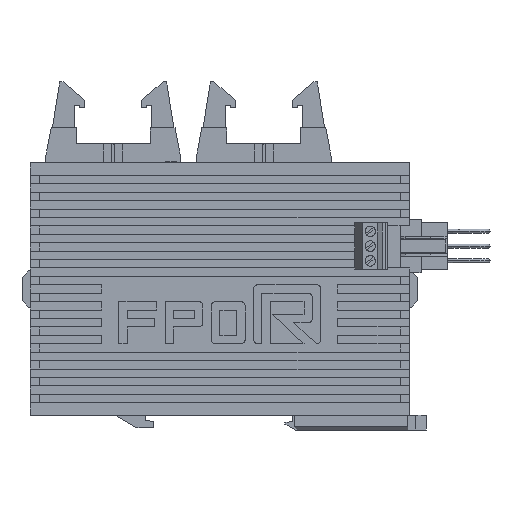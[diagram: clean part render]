
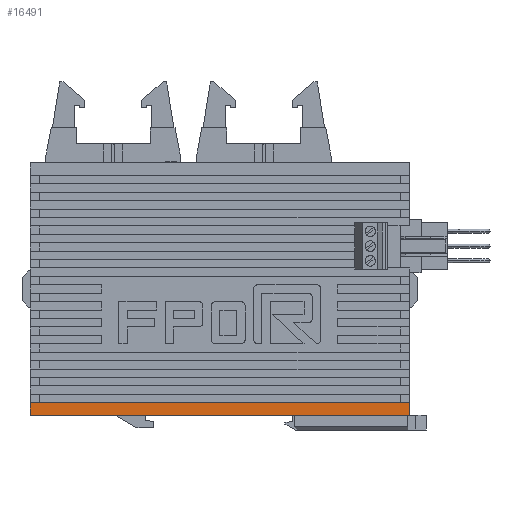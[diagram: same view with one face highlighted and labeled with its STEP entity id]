
A CAD part, left-side view. The second image highlights one B-rep face of the part: STEP entity #16491.
In plain terms, the highlighted planar face has unit normal (-1, 0, 0).
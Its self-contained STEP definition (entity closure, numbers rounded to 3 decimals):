
#15810 = EDGE_CURVE ( 'NONE', #15811, #17832, #32663, .T. ) ;
#15811 = VERTEX_POINT ( 'NONE', #32662 ) ;
#16491 = ADVANCED_FACE ( 'NONE', ( #33889 ), #33886, .F. ) ;
#16492 = EDGE_CURVE ( 'NONE', #16493, #15811, #33880, .T. ) ;
#16493 = VERTEX_POINT ( 'NONE', #33875 ) ;
#16494 = ORIENTED_EDGE ( 'NONE', *, *, #17825, .T. ) ;
#16495 = ORIENTED_EDGE ( 'NONE', *, *, #16555, .T. ) ;
#16501 = ORIENTED_EDGE ( 'NONE', *, *, #15810, .F. ) ;
#16511 = EDGE_LOOP ( 'NONE', ( #16501, #16554, #16495, #16494 ) ) ;
#16554 = ORIENTED_EDGE ( 'NONE', *, *, #16492, .F. ) ;
#16555 = EDGE_CURVE ( 'NONE', #16493, #17912, #33964, .T. ) ;
#17825 = EDGE_CURVE ( 'NONE', #17912, #17832, #36012, .T. ) ;
#17832 = VERTEX_POINT ( 'NONE', #35999 ) ;
#17912 = VERTEX_POINT ( 'NONE', #36132 ) ;
#32659 = DIRECTION ( 'NONE',  ( 0., 0., -1. ) ) ;
#32660 = VECTOR ( 'NONE', #32659, 1000. ) ;
#32661 = CARTESIAN_POINT ( 'NONE',  ( -12.5, -45., 60. ) ) ;
#32662 = CARTESIAN_POINT ( 'NONE',  ( -12.5, -45., 3. ) ) ;
#32663 = LINE ( 'NONE', #32661, #32660 ) ;
#33872 = DIRECTION ( 'NONE',  ( 0., -1., 0. ) ) ;
#33873 = VECTOR ( 'NONE', #33872, 1000. ) ;
#33875 = CARTESIAN_POINT ( 'NONE',  ( -12.5, 45., 3. ) ) ;
#33876 = DIRECTION ( 'NONE',  ( 0., 1., 0. ) ) ;
#33877 = DIRECTION ( 'NONE',  ( 1., 0., 0. ) ) ;
#33879 = CARTESIAN_POINT ( 'NONE',  ( -12.5, 45., 3. ) ) ;
#33880 = LINE ( 'NONE', #33879, #33873 ) ;
#33884 = CARTESIAN_POINT ( 'NONE',  ( -12.5, 45., 60. ) ) ;
#33886 = PLANE ( 'NONE',  #33887 ) ;
#33887 = AXIS2_PLACEMENT_3D ( 'NONE', #33884, #33877, #33876 ) ;
#33889 = FACE_OUTER_BOUND ( 'NONE', #16511, .T. ) ;
#33954 = DIRECTION ( 'NONE',  ( 0., 0., -1. ) ) ;
#33962 = VECTOR ( 'NONE', #33954, 1000. ) ;
#33963 = CARTESIAN_POINT ( 'NONE',  ( -12.5, 45., 60. ) ) ;
#33964 = LINE ( 'NONE', #33963, #33962 ) ;
#35999 = CARTESIAN_POINT ( 'NONE',  ( -12.5, -45., 0. ) ) ;
#36009 = DIRECTION ( 'NONE',  ( 0., -1., 0. ) ) ;
#36010 = VECTOR ( 'NONE', #36009, 1000. ) ;
#36011 = CARTESIAN_POINT ( 'NONE',  ( -12.5, 45., 0. ) ) ;
#36012 = LINE ( 'NONE', #36011, #36010 ) ;
#36132 = CARTESIAN_POINT ( 'NONE',  ( -12.5, 45., 0. ) ) ;
